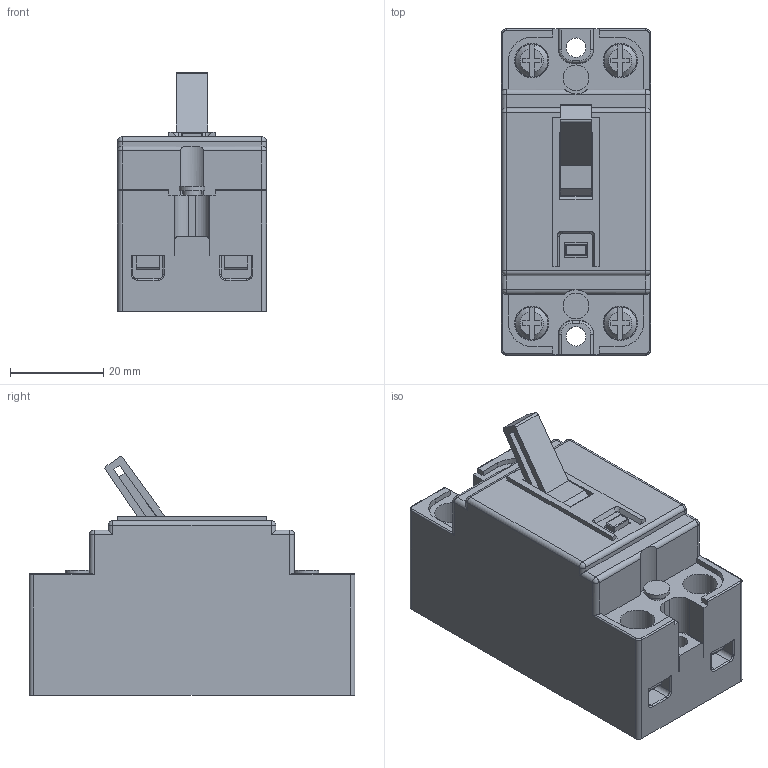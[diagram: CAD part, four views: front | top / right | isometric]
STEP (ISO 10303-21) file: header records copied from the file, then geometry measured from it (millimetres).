
FILE_DESCRIPTION(/* description */ (''),/* implementation_level */ '2;1');
FILE_NAME(/* name */ '06_kd-lb2123sa_141029.stp',/* time_stamp */ '2014-10-29T09:48:33+09:00',/* author */ (''),/* organization */ (''),/* preprocessor_version */ 'ST-DEVELOPER v14',/* originating_system */ 'SIEMENS PLM Software NX 8.0',/* authorisation */ '');
FILE_SCHEMA (('AP203_CONFIGURATION_CONTROLLED_3D_DESIGN_OF_MECHANICAL_PARTS_AND_ASSEMBLIES_MIM_LF { 1 0 10303 403 2 1 2}'));
Length unit declared in the file: millimetre
Products named in the file (1): as1808DC4DA56ihy
Bounding box: 32 x 70 x 51.3 mm (x, y, z)
Volume: 70166.9 mm3; surface area: 15812.4 mm2
Topology: 1 solids, 1 shells, 326 faces, 853 edges, 536 vertices
Faces by surface type: plane 184, cylinder 104, torus 16, sphere 12, cone 8, revolution 2
Full cylindrical faces by diameter (mm): 4 x2, 4.15 x2, 5.5 x2, 7 x4, 7.4 x4
Entity records: 9941 total; most frequent: CARTESIAN_POINT 1842, DIRECTION 1675, ORIENTED_EDGE 1646, EDGE_CURVE 823, LINE 563, VECTOR 563, AXIS2_PLACEMENT_3D 555, VERTEX_POINT 532
